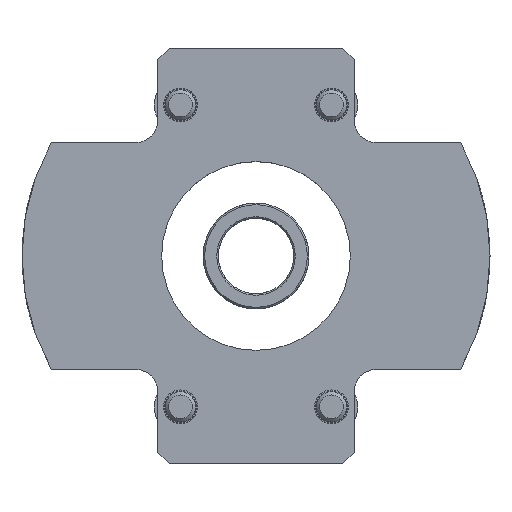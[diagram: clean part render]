
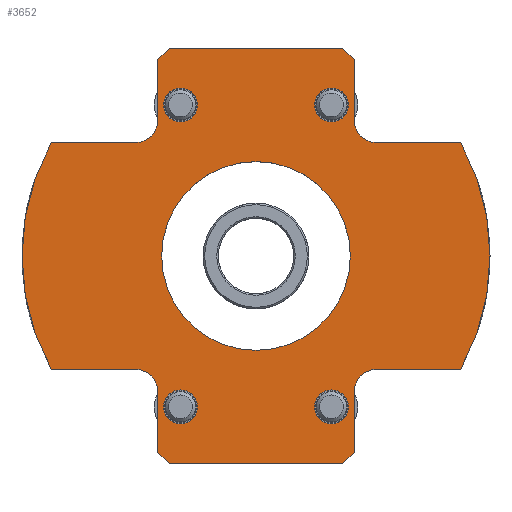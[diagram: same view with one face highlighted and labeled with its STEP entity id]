
A CAD part, top view. The second image highlights one B-rep face of the part: STEP entity #3652.
In plain terms, the highlighted planar face has unit normal (0, 0, 1) as drawn and (0, 0, -1) by its records, which use the part's own axes.
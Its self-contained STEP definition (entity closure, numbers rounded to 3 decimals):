
#188=FACE_BOUND('',#697,.T.);
#189=FACE_BOUND('',#698,.T.);
#190=FACE_BOUND('',#699,.T.);
#191=FACE_BOUND('',#700,.T.);
#192=FACE_BOUND('',#701,.T.);
#346=PLANE('',#4127);
#467=FACE_OUTER_BOUND('',#696,.T.);
#696=EDGE_LOOP('',(#2975,#2976,#2977,#2978,#2979,#2980,#2981,#2982,#2983,
#2984,#2985,#2986,#2987,#2988,#2989,#2990,#2991,#2992,#2993,#2994));
#697=EDGE_LOOP('',(#2995));
#698=EDGE_LOOP('',(#2996));
#699=EDGE_LOOP('',(#2997));
#700=EDGE_LOOP('',(#2998));
#701=EDGE_LOOP('',(#2999,#3000));
#863=LINE('',#5692,#1111);
#876=LINE('',#5732,#1124);
#888=LINE('',#5764,#1136);
#890=LINE('',#5767,#1138);
#919=LINE('',#5833,#1167);
#922=LINE('',#5838,#1170);
#924=LINE('',#5842,#1172);
#925=LINE('',#5844,#1173);
#929=LINE('',#5852,#1177);
#931=LINE('',#5855,#1179);
#974=LINE('',#5981,#1222);
#975=LINE('',#5985,#1223);
#982=LINE('',#6009,#1230);
#983=LINE('',#6013,#1231);
#1111=VECTOR('',#4596,10.);
#1124=VECTOR('',#4627,10.);
#1136=VECTOR('',#4649,10.);
#1138=VECTOR('',#4653,10.);
#1167=VECTOR('',#4698,10.);
#1170=VECTOR('',#4703,10.);
#1172=VECTOR('',#4707,10.);
#1173=VECTOR('',#4710,10.);
#1177=VECTOR('',#4716,10.);
#1179=VECTOR('',#4720,10.);
#1222=VECTOR('',#4859,10.);
#1223=VECTOR('',#4866,10.);
#1230=VECTOR('',#4893,10.);
#1231=VECTOR('',#4900,10.);
#1361=CIRCLE('',#4021,3.);
#1365=CIRCLE('',#4027,3.);
#1367=CIRCLE('',#4030,3.);
#1371=CIRCLE('',#4036,3.);
#1397=CIRCLE('',#4101,31.);
#1403=CIRCLE('',#4114,31.);
#1404=CIRCLE('',#4117,2.25);
#1405=CIRCLE('',#4119,2.25);
#1406=CIRCLE('',#4121,2.25);
#1407=CIRCLE('',#4123,2.25);
#1408=CIRCLE('',#4125,12.5);
#1409=CIRCLE('',#4126,12.5);
#1585=VERTEX_POINT('',#5681);
#1586=VERTEX_POINT('',#5683);
#1589=VERTEX_POINT('',#5691);
#1599=VERTEX_POINT('',#5712);
#1600=VERTEX_POINT('',#5714);
#1603=VERTEX_POINT('',#5721);
#1604=VERTEX_POINT('',#5723);
#1607=VERTEX_POINT('',#5731);
#1617=VERTEX_POINT('',#5752);
#1618=VERTEX_POINT('',#5754);
#1621=VERTEX_POINT('',#5761);
#1622=VERTEX_POINT('',#5763);
#1650=VERTEX_POINT('',#5830);
#1651=VERTEX_POINT('',#5832);
#1652=VERTEX_POINT('',#5836);
#1653=VERTEX_POINT('',#5840);
#1655=VERTEX_POINT('',#5849);
#1656=VERTEX_POINT('',#5851);
#1691=VERTEX_POINT('',#5979);
#1698=VERTEX_POINT('',#6007);
#1699=VERTEX_POINT('',#6015);
#1700=VERTEX_POINT('',#6019);
#1701=VERTEX_POINT('',#6023);
#1702=VERTEX_POINT('',#6027);
#1703=VERTEX_POINT('',#6031);
#1704=VERTEX_POINT('',#6032);
#1988=EDGE_CURVE('',#1585,#1586,#1361,.T.);
#1992=EDGE_CURVE('',#1586,#1589,#863,.T.);
#2003=EDGE_CURVE('',#1599,#1600,#1365,.T.);
#2007=EDGE_CURVE('',#1603,#1604,#1367,.T.);
#2011=EDGE_CURVE('',#1607,#1604,#876,.T.);
#2022=EDGE_CURVE('',#1617,#1618,#1371,.T.);
#2026=EDGE_CURVE('',#1621,#1622,#888,.T.);
#2028=EDGE_CURVE('',#1618,#1621,#890,.T.);
#2063=EDGE_CURVE('',#1650,#1651,#919,.T.);
#2066=EDGE_CURVE('',#1652,#1650,#922,.T.);
#2068=EDGE_CURVE('',#1653,#1652,#924,.T.);
#2069=EDGE_CURVE('',#1600,#1653,#925,.T.);
#2073=EDGE_CURVE('',#1655,#1656,#929,.T.);
#2075=EDGE_CURVE('',#1622,#1655,#931,.T.);
#2137=EDGE_CURVE('',#1691,#1599,#974,.T.);
#2138=EDGE_CURVE('',#1589,#1691,#1397,.T.);
#2139=EDGE_CURVE('',#1656,#1585,#975,.T.);
#2151=EDGE_CURVE('',#1617,#1698,#982,.T.);
#2152=EDGE_CURVE('',#1698,#1607,#1403,.T.);
#2153=EDGE_CURVE('',#1651,#1603,#983,.T.);
#2155=EDGE_CURVE('',#1699,#1699,#1404,.T.);
#2157=EDGE_CURVE('',#1700,#1700,#1405,.T.);
#2159=EDGE_CURVE('',#1701,#1701,#1406,.T.);
#2161=EDGE_CURVE('',#1702,#1702,#1407,.T.);
#2162=EDGE_CURVE('',#1703,#1704,#1408,.T.);
#2163=EDGE_CURVE('',#1704,#1703,#1409,.T.);
#2975=ORIENTED_EDGE('',*,*,#2026,.F.);
#2976=ORIENTED_EDGE('',*,*,#2028,.F.);
#2977=ORIENTED_EDGE('',*,*,#2022,.F.);
#2978=ORIENTED_EDGE('',*,*,#2151,.T.);
#2979=ORIENTED_EDGE('',*,*,#2152,.T.);
#2980=ORIENTED_EDGE('',*,*,#2011,.T.);
#2981=ORIENTED_EDGE('',*,*,#2007,.F.);
#2982=ORIENTED_EDGE('',*,*,#2153,.F.);
#2983=ORIENTED_EDGE('',*,*,#2063,.F.);
#2984=ORIENTED_EDGE('',*,*,#2066,.F.);
#2985=ORIENTED_EDGE('',*,*,#2068,.F.);
#2986=ORIENTED_EDGE('',*,*,#2069,.F.);
#2987=ORIENTED_EDGE('',*,*,#2003,.F.);
#2988=ORIENTED_EDGE('',*,*,#2137,.F.);
#2989=ORIENTED_EDGE('',*,*,#2138,.F.);
#2990=ORIENTED_EDGE('',*,*,#1992,.F.);
#2991=ORIENTED_EDGE('',*,*,#1988,.F.);
#2992=ORIENTED_EDGE('',*,*,#2139,.F.);
#2993=ORIENTED_EDGE('',*,*,#2073,.F.);
#2994=ORIENTED_EDGE('',*,*,#2075,.F.);
#2995=ORIENTED_EDGE('',*,*,#2155,.T.);
#2996=ORIENTED_EDGE('',*,*,#2157,.T.);
#2997=ORIENTED_EDGE('',*,*,#2159,.T.);
#2998=ORIENTED_EDGE('',*,*,#2161,.T.);
#2999=ORIENTED_EDGE('',*,*,#2162,.T.);
#3000=ORIENTED_EDGE('',*,*,#2163,.T.);
#3652=ADVANCED_FACE('',(#467,#188,#189,#190,#191,#192),#346,.F.);
#4021=AXIS2_PLACEMENT_3D('',#5684,#4588,#4589);
#4027=AXIS2_PLACEMENT_3D('',#5715,#4611,#4612);
#4030=AXIS2_PLACEMENT_3D('',#5724,#4619,#4620);
#4036=AXIS2_PLACEMENT_3D('',#5755,#4642,#4643);
#4101=AXIS2_PLACEMENT_3D('',#5983,#4862,#4863);
#4114=AXIS2_PLACEMENT_3D('',#6011,#4896,#4897);
#4117=AXIS2_PLACEMENT_3D('',#6017,#4904,#4905);
#4119=AXIS2_PLACEMENT_3D('',#6021,#4909,#4910);
#4121=AXIS2_PLACEMENT_3D('',#6025,#4914,#4915);
#4123=AXIS2_PLACEMENT_3D('',#6029,#4919,#4920);
#4125=AXIS2_PLACEMENT_3D('',#6033,#4923,#4924);
#4126=AXIS2_PLACEMENT_3D('',#6034,#4925,#4926);
#4127=AXIS2_PLACEMENT_3D('',#6036,#4928,#4929);
#4588=DIRECTION('center_axis',(0.,0.,-1.));
#4589=DIRECTION('ref_axis',(0.707,0.707,0.));
#4596=DIRECTION('',(0.,-1.,0.));
#4611=DIRECTION('center_axis',(0.,0.,-1.));
#4612=DIRECTION('ref_axis',(-0.707,0.707,0.));
#4619=DIRECTION('center_axis',(0.,0.,-1.));
#4620=DIRECTION('ref_axis',(-0.707,-0.707,0.));
#4627=DIRECTION('',(0.,-1.,0.));
#4642=DIRECTION('center_axis',(0.,0.,-1.));
#4643=DIRECTION('ref_axis',(0.707,-0.707,0.));
#4649=DIRECTION('',(-0.707,-0.707,0.));
#4653=DIRECTION('',(-1.,0.,0.));
#4698=DIRECTION('',(-0.707,0.707,0.));
#4703=DIRECTION('',(0.,1.,0.));
#4707=DIRECTION('',(0.707,0.707,0.));
#4710=DIRECTION('',(1.,0.,0.));
#4716=DIRECTION('',(0.707,-0.707,0.));
#4720=DIRECTION('',(0.,-1.,0.));
#4859=DIRECTION('',(0.,1.,0.));
#4862=DIRECTION('center_axis',(0.,0.,1.));
#4863=DIRECTION('ref_axis',(0.484,-0.875,0.));
#4866=DIRECTION('',(1.,0.,0.));
#4893=DIRECTION('',(0.,1.,0.));
#4896=DIRECTION('center_axis',(0.,0.,-1.));
#4897=DIRECTION('ref_axis',(0.484,0.875,0.));
#4900=DIRECTION('',(-1.,0.,0.));
#4904=DIRECTION('center_axis',(0.,0.,1.));
#4905=DIRECTION('ref_axis',(1.,0.,0.));
#4909=DIRECTION('center_axis',(0.,0.,1.));
#4910=DIRECTION('ref_axis',(1.,0.,0.));
#4914=DIRECTION('center_axis',(0.,0.,1.));
#4915=DIRECTION('ref_axis',(1.,0.,0.));
#4919=DIRECTION('center_axis',(0.,0.,1.));
#4920=DIRECTION('ref_axis',(1.,0.,0.));
#4923=DIRECTION('center_axis',(0.,0.,1.));
#4924=DIRECTION('ref_axis',(1.,0.,0.));
#4925=DIRECTION('center_axis',(0.,0.,1.));
#4926=DIRECTION('ref_axis',(1.,0.,0.));
#4928=DIRECTION('center_axis',(0.,0.,1.));
#4929=DIRECTION('ref_axis',(1.,0.,0.));
#5681=CARTESIAN_POINT('',(-18.,-13.,0.));
#5683=CARTESIAN_POINT('',(-15.,-16.,0.));
#5684=CARTESIAN_POINT('Origin',(-18.,-16.,0.));
#5691=CARTESIAN_POINT('',(-15.,-27.129,0.));
#5692=CARTESIAN_POINT('',(-15.,-17.5,0.));
#5712=CARTESIAN_POINT('',(15.,-16.,0.));
#5714=CARTESIAN_POINT('',(18.,-13.,0.));
#5715=CARTESIAN_POINT('Origin',(18.,-16.,0.));
#5721=CARTESIAN_POINT('',(18.,13.,0.));
#5723=CARTESIAN_POINT('',(15.,16.,0.));
#5724=CARTESIAN_POINT('Origin',(18.,16.,0.));
#5731=CARTESIAN_POINT('',(15.,27.129,0.));
#5732=CARTESIAN_POINT('',(15.,24.565,0.));
#5752=CARTESIAN_POINT('',(-15.,16.,0.));
#5754=CARTESIAN_POINT('',(-18.,13.,0.));
#5755=CARTESIAN_POINT('Origin',(-18.,16.,0.));
#5761=CARTESIAN_POINT('',(-26.,13.,0.));
#5763=CARTESIAN_POINT('',(-27.5,11.5,0.));
#5764=CARTESIAN_POINT('',(-23.125,15.875,0.));
#5767=CARTESIAN_POINT('',(27.5,13.,0.));
#5830=CARTESIAN_POINT('',(27.5,11.5,0.));
#5832=CARTESIAN_POINT('',(26.,13.,0.));
#5833=CARTESIAN_POINT('',(23.125,15.875,0.));
#5836=CARTESIAN_POINT('',(27.5,-11.5,0.));
#5838=CARTESIAN_POINT('',(27.5,-13.,0.));
#5840=CARTESIAN_POINT('',(26.,-13.,0.));
#5842=CARTESIAN_POINT('',(23.125,-15.875,0.));
#5844=CARTESIAN_POINT('',(-27.5,-13.,0.));
#5849=CARTESIAN_POINT('',(-27.5,-11.5,0.));
#5851=CARTESIAN_POINT('',(-26.,-13.,0.));
#5852=CARTESIAN_POINT('',(-23.125,-15.875,0.));
#5855=CARTESIAN_POINT('',(-27.5,13.,0.));
#5979=CARTESIAN_POINT('',(15.,-27.129,0.));
#5981=CARTESIAN_POINT('',(15.,-24.565,0.));
#5983=CARTESIAN_POINT('Origin',(0.,0.,0.));
#5985=CARTESIAN_POINT('',(-27.5,-13.,0.));
#6007=CARTESIAN_POINT('',(-15.,27.129,0.));
#6009=CARTESIAN_POINT('',(-15.,17.5,0.));
#6011=CARTESIAN_POINT('Origin',(0.,0.,0.));
#6013=CARTESIAN_POINT('',(27.5,13.,0.));
#6015=CARTESIAN_POINT('',(17.75,10.,0.));
#6017=CARTESIAN_POINT('Origin',(20.,10.,0.));
#6019=CARTESIAN_POINT('',(-22.25,-10.,0.));
#6021=CARTESIAN_POINT('Origin',(-20.,-10.,0.));
#6023=CARTESIAN_POINT('',(-22.25,10.,0.));
#6025=CARTESIAN_POINT('Origin',(-20.,10.,0.));
#6027=CARTESIAN_POINT('',(17.75,-10.,0.));
#6029=CARTESIAN_POINT('Origin',(20.,-10.,0.));
#6031=CARTESIAN_POINT('',(12.5,0.,0.));
#6032=CARTESIAN_POINT('',(-12.5,0.,0.));
#6033=CARTESIAN_POINT('Origin',(0.,0.,0.));
#6034=CARTESIAN_POINT('Origin',(0.,0.,0.));
#6036=CARTESIAN_POINT('Origin',(0.,0.,
0.));
